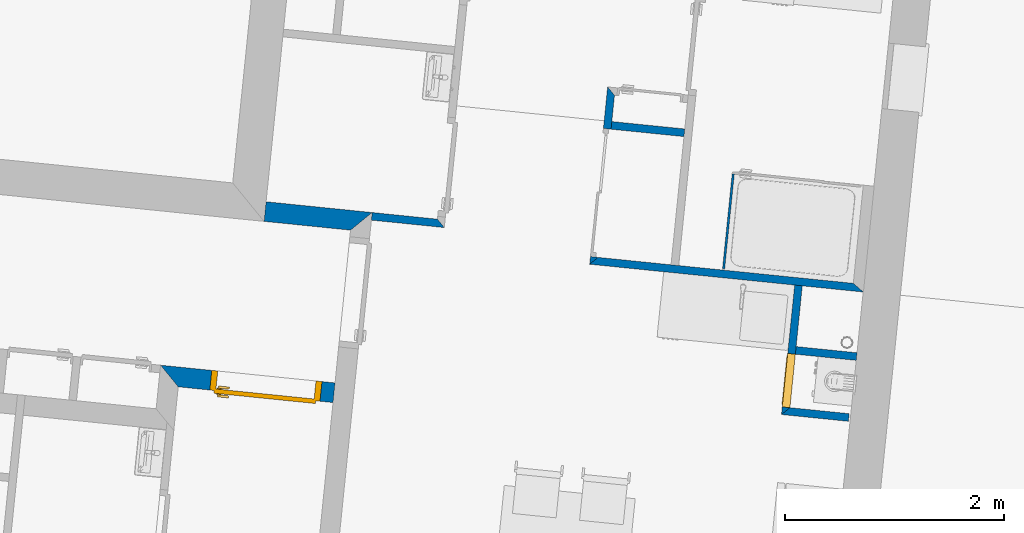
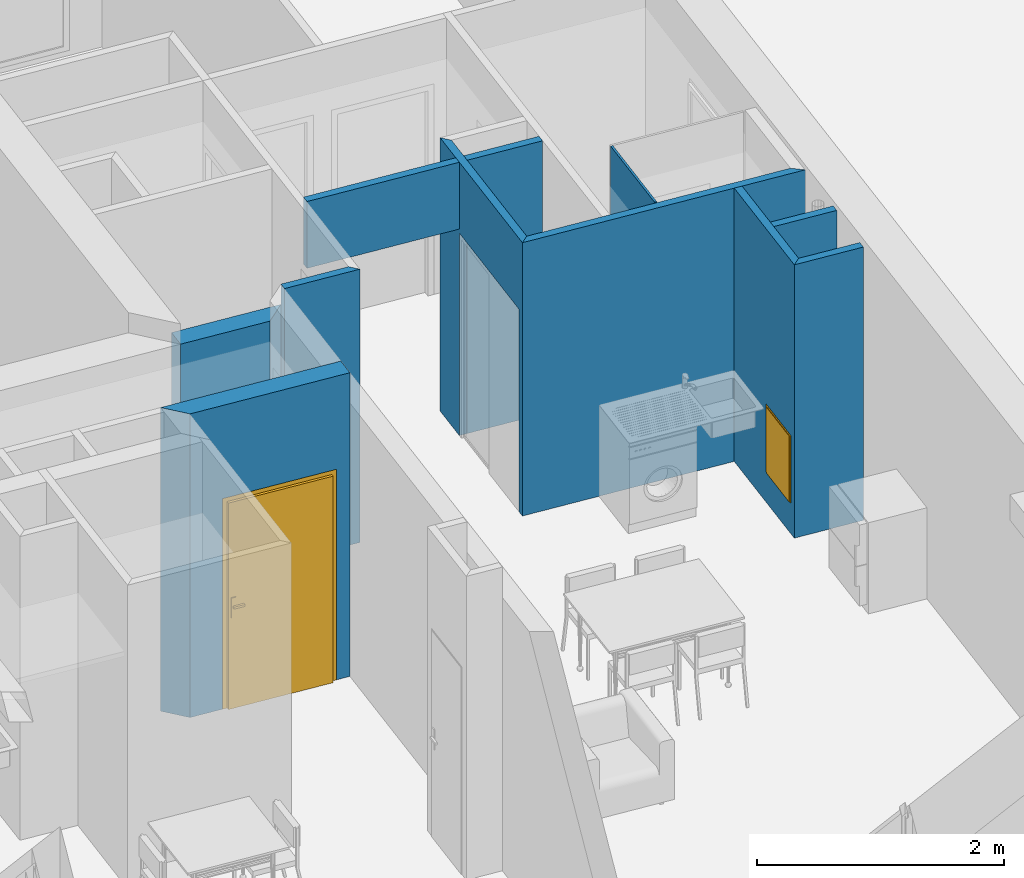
# One storey, part 75 of 171: 10 walls, 2 doors, 4 openings.
"""IFC2X3 building model written with IfcOpenShell, lengths in millimetres."""

from ifc_helpers import new_model, entity, si_unit, converted_unit, derived_unit, money_unit, direction, frame, origin_with_axes, origin_2d_with_axis, place, context, subcontext, project, spatial, polyline, rectangle, outline, extrude, faceted_brep, source, transform, mapped, material, layer, layer_set, layer_usage, type_object, element, fill, save


model = new_model("IFC2X3")

# Units and contexts
model_context = context("Model", 3, precision=0.01, world=origin_with_axes(), true_north=direction((0.0, 1.0)))
body_context = subcontext(model_context, "Body", "Model", "MODEL_VIEW")
ifc_project = project(units=[si_unit("LENGTHUNIT", "METRE", prefix="MILLI"), si_unit("AREAUNIT", "SQUARE_METRE"), si_unit("VOLUMEUNIT", "CUBIC_METRE"), converted_unit("PLANEANGLEUNIT", "DEGREE", entity("IfcPlaneAngleMeasure", 0.0174532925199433), si_unit("PLANEANGLEUNIT", "RADIAN"), dimensions=[0, 0, 0, 0, 0, 0, 0]), money_unit("USD"), converted_unit("TIMEUNIT", "Year", entity("IfcTimeMeasure", 31557600.0), si_unit("TIMEUNIT", "SECOND"), dimensions=[0, 0, 1, 0, 0, 0, 0]), si_unit("MASSUNIT", "GRAM", prefix="KILO"), si_unit("THERMODYNAMICTEMPERATUREUNIT", "DEGREE_CELSIUS"), si_unit("LUMINOUSINTENSITYUNIT", "LUMEN"), si_unit("ENERGYUNIT", "JOULE", prefix="MEGA"), derived_unit("THERMALCONDUCTANCEUNIT", [(si_unit("POWERUNIT", "WATT"), 1), (si_unit("LENGTHUNIT", "METRE"), -1), (si_unit("THERMODYNAMICTEMPERATUREUNIT", "KELVIN"), -1)]), derived_unit("SPECIFICHEATCAPACITYUNIT", [(si_unit("ENERGYUNIT", "JOULE"), 1), (si_unit("MASSUNIT", "GRAM", prefix="KILO"), -1), (si_unit("THERMODYNAMICTEMPERATUREUNIT", "KELVIN"), -1)]), derived_unit("MASSDENSITYUNIT", [(si_unit("MASSUNIT", "GRAM", prefix="KILO"), 1), (si_unit("VOLUMEUNIT", "CUBIC_METRE"), -1)])], contexts=[model_context])

# Site, building, storey
site_placement = place(None, origin_with_axes())
site = spatial("IfcSite", under=ifc_project, at=site_placement, Name="Site", CompositionType="ELEMENT")
building_placement = place(site_placement, origin_with_axes())
building = spatial("IfcBuilding", under=site, at=building_placement, Name="Bâtiment", CompositionType="ELEMENT")
storey_placement = place(building_placement, frame((0.0, 0.0, 3000.0), z_axis=(0.0, 0.0, 1.0), x_axis=(1.0, 0.0, 0.0)))
storey = spatial("IfcBuildingStorey", under=building, at=storey_placement, Name="rdc", CompositionType="ELEMENT", Elevation=3000.0)

# Wall, opening, door
ifc_material_1 = material(Name="Parpaing 314940890")
ifc_layer_1 = layer(ifc_material_1, 180.0, ventilated="UNKNOWN")
ifc_layer_set_1 = layer_set([ifc_layer_1], Name="Beton  18 0018356637")
ifc_layer_usage_1 = layer_usage(ifc_layer_set_1, "AXIS2", "NEGATIVE", 0.0)
wall_type_1 = type_object("IfcWallType", Name="Beton  18 0018356637 180", PredefinedType="NOTDEFINED")
wall_1_placement = place(storey_placement, frame((2232652.355982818, -614599.5542464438, 0.0), z_axis=(0.0, 0.0, 1.0), x_axis=(0.9948759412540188, -0.1011032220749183, 0.0)))
wall_1 = element("IfcWallStandardCase", 1, at=wall_1_placement, inside=storey, type_object=wall_type_1, material=ifc_layer_usage_1, Name="Mur-142", context=body_context, shape_type="SweptSolid", body=[
    extrude(outline(polyline([(179.99999999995, -179.9999999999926), (1599.034845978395, -179.9999999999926), (1598.986517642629, 0.0), (-1.13686837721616e-10, 0.0), (179.99999999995, -179.9999999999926)])), origin_with_axes(), (0.0, 0.0, 1.0), 3000.0),
])
opening_1_placement = place(wall_1_placement, frame((974.396814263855, 0.0, 0.0), z_axis=(0.0, 0.0, 1.0), x_axis=(1.0, 0.0, 0.0)))
opening_1 = element("IfcOpeningElement", 2, at=opening_1_placement, cuts=wall_1, Name="Por-279", context=body_context, shape_type="SweptSolid", body=[
    extrude(rectangle(XDim=1010.000011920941, YDim=2080.0, at=origin_2d_with_axis()), frame((5.960373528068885e-06, 180.0000000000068, 1040.0), z_axis=(0.0, 1.0, 0.0), x_axis=(1.0, 0.0, 0.0)), (0.0, 0.0, -1.0), 360.0),
])
door_style = type_object("IfcDoorStyle", Name="Porte_1v", ConstructionType="NOTDEFINED", OperationType="NOTDEFINED", ParameterTakesPrecedence=False, Sizeable=False)
shared_shape_1 = source(origin_with_axes(), body_context, "Body", "Brep", [
    faceted_brep([(-504.9999999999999, 0.0, 0.0), (-504.9999999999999, 0.0, 2080.0), (504.9999999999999, 0.0, 2080.0), (504.9999999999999, 0.0, 0.0), (464.9999999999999, 0.0, 0.0), (464.9999999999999, 0.0, 2040.0), (-464.9999999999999, 0.0, 2040.0), (-464.9999999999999, 0.0, 0.0), (-504.9999999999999, -180.0, 0.0), (-504.9999999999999, -180.0, 2080.0), (504.9999999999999, -180.0, 2080.0), (504.9999999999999, -180.0, 0.0), (449.9999999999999, -180.0, 0.0), (449.9999999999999, -15.0, 0.0), (464.9999999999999, -15.0, 0.0), (464.9999999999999, -15.0, 2040.0), (-464.9999999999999, -15.0, 2040.0), (-464.9999999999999, -15.0, 0.0), (-449.9999999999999, -15.0, 0.0), (-449.9999999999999, -180.0, 0.0), (-449.9999999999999, -180.0, 2025.0), (449.9999999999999, -180.0, 2025.0), (449.9999999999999, -15.0, 2025.0), (-449.9999999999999, -15.0, 2025.0)], [[[0, 1, 2, 3, 4, 5, 6, 7]], [[8, 9, 1, 0]], [[9, 10, 2, 1]], [[10, 11, 3, 2]], [[3, 11, 12, 13, 14, 4]], [[5, 4, 14, 15]], [[6, 5, 15, 16]], [[7, 6, 16, 17]], [[0, 7, 17, 18, 19, 8]], [[19, 20, 21, 12, 11, 10, 9, 8]], [[22, 13, 12, 21]], [[17, 16, 15, 14, 13, 22, 23, 18]], [[18, 23, 20, 19]], [[23, 22, 21, 20]]]),
    faceted_brep([(399.9999999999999, -15.0, 900.0), (399.9999999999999, -15.0, 1100.0), (439.9999999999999, -15.0, 1100.0), (439.9999999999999, -15.0, 900.0), (399.9999999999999, -25.0, 900.0), (399.9999999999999, -25.0, 1100.0), (439.9999999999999, -25.0, 1100.0), (439.9999999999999, -25.0, 900.0)], [[[0, 1, 2, 3]], [[0, 4, 5, 1]], [[1, 5, 6, 2]], [[2, 6, 7, 3]], [[3, 7, 4, 0]], [[7, 6, 5, 4]]]),
    faceted_brep([(329.9999999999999, -25.0, 1000.0), (329.9999999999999, -25.0, 1020.0), (429.9999999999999, -25.0, 1020.0), (429.9999999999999, -25.0, 1000.0), (329.9999999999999, -44.99999999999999, 1000.0), (329.9999999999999, -44.99999999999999, 1020.0), (429.9999999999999, -44.99999999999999, 1020.0), (429.9999999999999, -44.99999999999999, 1000.0)], [[[0, 1, 2, 3]], [[0, 4, 5, 1]], [[1, 5, 6, 2]], [[2, 6, 7, 3]], [[3, 7, 4, 0]], [[7, 6, 5, 4]]]),
    faceted_brep([(399.9999999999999, 34.99999999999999, 900.0), (399.9999999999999, 34.99999999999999, 1100.0), (439.9999999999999, 34.99999999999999, 1100.0), (439.9999999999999, 34.99999999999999, 900.0), (399.9999999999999, 25.0, 900.0), (399.9999999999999, 25.0, 1100.0), (439.9999999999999, 25.0, 1100.0), (439.9999999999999, 25.0, 900.0)], [[[0, 1, 2, 3]], [[0, 4, 5, 1]], [[1, 5, 6, 2]], [[2, 6, 7, 3]], [[3, 7, 4, 0]], [[7, 6, 5, 4]]]),
    faceted_brep([(329.9999999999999, 55.0, 1000.0), (329.9999999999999, 55.0, 1020.0), (429.9999999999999, 55.0, 1020.0), (429.9999999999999, 55.0, 1000.0), (329.9999999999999, 34.99999999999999, 1000.0), (329.9999999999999, 34.99999999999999, 1020.0), (429.9999999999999, 34.99999999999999, 1020.0), (429.9999999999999, 34.99999999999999, 1000.0)], [[[0, 1, 2, 3]], [[0, 4, 5, 1]], [[1, 5, 6, 2]], [[2, 6, 7, 3]], [[3, 7, 4, 0]], [[7, 6, 5, 4]]]),
    faceted_brep([(464.9999999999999, 25.0, 0.0), (464.9999999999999, -15.0, 0.0), (-464.9999999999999, -15.0, 0.0), (-464.9999999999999, 25.0, 0.0), (464.9999999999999, 25.0, 2040.0), (464.9999999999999, -15.0, 2040.0), (-464.9999999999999, -15.0, 2040.0), (-464.9999999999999, 25.0, 2040.0)], [[[0, 1, 2, 3]], [[4, 5, 1, 0]], [[1, 5, 6, 2]], [[3, 2, 6, 7]], [[0, 3, 7, 4]], [[7, 6, 5, 4]]]),
])
door_1_placement = place(opening_1_placement, frame((464.9999999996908, 0.0, 0.0), z_axis=(0.0, 0.0, 1.0), x_axis=(-1.0, 0.0, 0.0)))
door_1 = element("IfcDoor", 3, at=door_1_placement, inside=storey, type_object=door_style, Name="Por-279", OverallHeight=2040.0, OverallWidth=930.0, context=body_context, shape_type="MappedRepresentation", body=[
    mapped(shared_shape_1, transform((465.0000000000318, 180.0000000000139, 0.0))),
])
fill(opening_1, door_1)

# Walls
ifc_layer_usage_2 = layer_usage(ifc_layer_set_1, "AXIS2", "NEGATIVE", 0.0)
wall_2_placement = place(storey_placement, frame((2233614.508037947, -613109.1942641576, 0.0), z_axis=(0.0, 0.0, 1.0), x_axis=(0.9948759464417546, -0.1011031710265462, 0.0)))
element("IfcWallStandardCase", 4, at=wall_2_placement, inside=storey, type_object=wall_type_1, material=ifc_layer_usage_2, Name="Mur-143", context=body_context, shape_type="SweptSolid", body=[
    extrude(outline(polyline([(1.13686837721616e-10, -179.9999999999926), (792.0688861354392, -179.9999999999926), (972.0205735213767, 0.0), (0.0, 0.0), (1.13686837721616e-10, -179.9999999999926)])), origin_with_axes(), (0.0, 0.0, 1.0), 2500.0),
])
ifc_material_2 = material(Name="Hachure solide 268963992")
ifc_layer_2 = layer(ifc_material_2, 70.0, ventilated="UNKNOWN")
ifc_layer_set_2 = layer_set([ifc_layer_2], Name="Cloison 70 0826278243")
ifc_layer_usage_3 = layer_usage(ifc_layer_set_2, "AXIS2", "NEGATIVE", 70.0)
wall_type_2 = type_object("IfcWallType", Name="Cloison 70 0826278243 70", PredefinedType="NOTDEFINED")
wall_3_placement = place(storey_placement, frame((2238314.263048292, -615049.4954100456, 0.0), z_axis=(0.0, 0.0, 1.0), x_axis=(0.9948759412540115, -0.1011032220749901, 0.0)))
element("IfcWallStandardCase", 5, at=wall_3_placement, inside=storey, type_object=wall_type_2, material=ifc_layer_usage_3, Name="Mur-149", context=body_context, shape_type="SweptSolid", body=[
    extrude(outline(polyline([(0.0, 0.0), (613.0835366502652, 0.0), (613.0835366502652, 70.00000000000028), (70.00000000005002, 70.00000000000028), (0.0, 0.0)])), origin_with_axes(), (0.0, 0.0, 1.0), 2700.0),
])

# Wall, opening, door
ifc_layer_usage_4 = layer_usage(ifc_layer_set_2, "AXIS2", "NEGATIVE", 70.0)
wall_4_placement = place(storey_placement, frame((2238441.302085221, -613799.4058595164, 0.0), z_axis=(0.0, 0.0, 1.0), x_axis=(-0.1011032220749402, -0.9948759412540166, 0.0)))
wall_4 = element("IfcWallStandardCase", 6, at=wall_4_placement, inside=storey, type_object=wall_type_2, material=ifc_layer_usage_4, Name="Mur-149", context=body_context, shape_type="SweptSolid", body=[
    extrude(outline(polyline([(69.99999560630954, 0.0), (1256.528074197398, 0.0), (1186.528074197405, 69.99999999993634), (69.99999609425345, 69.99999999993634), (69.99999560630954, 0.0)])), origin_with_axes(), (0.0, 0.0, 1.0), 2700.0),
])
opening_2_placement = place(wall_4_placement, frame((941.528074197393, 0.0, 299.9999999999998), z_axis=(0.0, 0.0, 1.0), x_axis=(1.0, 0.0, 0.0)))
opening_2 = element("IfcOpeningElement", 7, at=opening_2_placement, cuts=wall_4, Name="Por-249", context=body_context, shape_type="SweptSolid", body=[
    extrude(rectangle(XDim=489.9999985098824, YDim=669.9999999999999, at=origin_2d_with_axis()), frame((7.450680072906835e-07, 69.99999999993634, 334.9999999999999), z_axis=(0.0, -1.0, 0.0), x_axis=(-1.0, 0.0, 0.0)), (0.0, 0.0, 1.0), 140.0),
])
shared_shape_2 = source(origin_with_axes(), body_context, "Body", "Brep", [
    faceted_brep([(245.0, 0.0, 0.0), (225.0, 0.0, 0.0), (225.0, 0.0, 650.0), (-225.0, 0.0, 650.0), (-225.0, 0.0, 0.0), (-245.0, 0.0, 0.0), (-245.0, 0.0, 670.0), (245.0, 0.0, 670.0), (245.0, -70.0, 0.0), (210.0, -70.0, 0.0), (210.0, -15.0, 0.0), (225.0, -15.0, 0.0), (225.0, -15.0, 650.0), (-225.0, -15.0, 650.0), (-225.0, -15.0, 0.0), (-210.0, -15.0, 0.0), (-210.0, -70.0, 0.0), (-245.0, -70.0, 0.0), (-245.0, -70.0, 670.0), (245.0, -70.0, 670.0), (-210.0, -70.0, 635.0), (210.0, -70.0, 635.0), (210.0, -15.0, 635.0), (-210.0, -15.0, 635.0)], [[[0, 1, 2, 3, 4, 5, 6, 7]], [[0, 8, 9, 10, 11, 1]], [[1, 11, 12, 2]], [[2, 12, 13, 3]], [[3, 13, 14, 4]], [[5, 4, 14, 15, 16, 17]], [[18, 6, 5, 17]], [[19, 7, 6, 18]], [[8, 0, 7, 19]], [[9, 8, 19, 18, 17, 16, 20, 21]], [[10, 9, 21, 22]], [[11, 10, 22, 23, 15, 14, 13, 12]], [[23, 20, 16, 15]], [[22, 21, 20, 23]]]),
    faceted_brep([(-225.0, 5.000000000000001, 0.0), (225.0, 5.000000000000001, 0.0), (225.0, -15.0, 0.0), (-225.0, -15.0, 0.0), (-225.0, 5.000000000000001, 650.0), (225.0, 5.000000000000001, 650.0), (225.0, -15.0, 650.0), (-225.0, -15.0, 650.0)], [[[0, 1, 2, 3]], [[0, 4, 5, 1]], [[1, 5, 6, 2]], [[3, 2, 6, 7]], [[4, 0, 3, 7]], [[5, 4, 7, 6]]]),
])
door_2_placement = place(opening_2_placement, frame((224.999999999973, -1.13686837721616e-10, 0.0), z_axis=(0.0, 0.0, 1.0), x_axis=(-1.0, 0.0, 0.0)))
door_2 = element("IfcDoor", 8, at=door_2_placement, inside=storey, type_object=door_style, Name="Por-249", OverallHeight=650.0, OverallWidth=450.0, context=body_context, shape_type="MappedRepresentation", body=[
    mapped(shared_shape_2, transform((224.9999999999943, 0.0, 0.0))),
])
fill(opening_2, door_2)

# Walls
ifc_layer_usage_5 = layer_usage(ifc_layer_set_2, "AXIS2", "NEGATIVE", 0.0)
wall_5_placement = place(storey_placement, frame((2236571.940389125, -613609.4339239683, 0.0), z_axis=(0.0, 0.0, 1.0), x_axis=(0.9948759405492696, -0.1011032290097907, 0.0)))
element("IfcWallStandardCase", 9, at=wall_5_placement, inside=storey, type_object=wall_type_2, material=ifc_layer_usage_5, Name="Mur-153", context=body_context, shape_type="SweptSolid", body=[
    extrude(outline(polyline([(0.01879483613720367, -69.99999999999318), (2509.308472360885, -69.99999999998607), (2409.317792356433, 0.0), (70.00000251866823, 0.0), (0.01879483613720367, -69.99999999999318)])), origin_with_axes(), (0.0, 0.0, 1.0), 2700.0),
])
ifc_layer_usage_6 = layer_usage(ifc_layer_set_2, "AXIS2", "NEGATIVE", 70.0)
wall_6_placement = place(storey_placement, frame((2235176.883858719, -613267.9689967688, 0.0), z_axis=(0.0, 0.0, 1.0), x_axis=(-0.9948759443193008, 0.1011031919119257, 0.0)))
element("IfcWallStandardCase", 10, at=wall_6_placement, inside=storey, type_object=wall_type_2, material=ifc_layer_usage_6, Name="Mur-149", context=body_context, shape_type="SweptSolid", body=[
    extrude(outline(polyline([(-1.13686837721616e-10, 0.0), (598.4021788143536, 0.0), (598.3833865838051, 69.99999999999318), (-70.00000146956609, 69.99999999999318), (-1.13686837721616e-10, 0.0)])), origin_with_axes(), (0.0, 0.0, 1.0), 2700.0),
])
ifc_layer_usage_7 = layer_usage(ifc_layer_set_2, "AXIS2", "NEGATIVE", 70.0)
wall_7_placement = place(storey_placement, frame((2238370.880852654, -614492.3648829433, 0.0), z_axis=(0.0, 0.0, 1.0), x_axis=(0.9948759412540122, -0.1011032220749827, 0.0)))
element("IfcWallStandardCase", 11, at=wall_7_placement, inside=storey, type_object=wall_type_2, material=ifc_layer_usage_7, Name="Mur-149", context=body_context, shape_type="SweptSolid", body=[
    extrude(outline(polyline([(69.99999999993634, 0.0), (628.051133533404, 0.0), (628.0511335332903, 69.99999999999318), (69.99999999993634, 69.99999999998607), (69.99999999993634, 0.0)])), origin_with_axes(), (0.0, 0.0, 1.0), 2700.0),
])

# Wall, opening
ifc_layer_usage_8 = layer_usage(ifc_layer_set_2, "AXIS2", "NEGATIVE", 0.0)
wall_8_placement = place(storey_placement, frame((2236571.940387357, -613609.43394137, 0.0), z_axis=(0.0, 0.0, 1.0), x_axis=(0.1008361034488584, 0.9949030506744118, 0.0)))
wall_8 = element("IfcWallStandardCase", 12, at=wall_8_placement, inside=storey, type_object=wall_type_2, material=ifc_layer_usage_8, Name="Mur-153", context=body_context, shape_type="SweptSolid", body=[
    extrude(outline(polyline([(-0.01877734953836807, -70.00000000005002), (1485.488833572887, -70.00000000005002), (1555.488833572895, 0.0), (-69.99998503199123, 0.0), (-0.01877734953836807, -70.00000000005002)])), origin_with_axes(), (0.0, 0.0, 1.0), 2700.0),
])
opening_3_placement = place(wall_8_placement, frame((587.2524613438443, 1.13686837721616e-10, 0.0), z_axis=(0.0, 0.0, 1.0), x_axis=(1.0, 0.0, 0.0)))
element("IfcOpeningElement", 13, at=opening_3_placement, cuts=wall_8, Name="Por-254", context=body_context, shape_type="SweptSolid", body=[
    extrude(rectangle(XDim=1174.542511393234, YDim=2000.0, at=origin_2d_with_axis()), frame((0.0, -1.13686837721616e-10, 1000.0), z_axis=(0.0, -1.0, 0.0), x_axis=(1.0, 0.0, 0.0)), (0.0, 0.0, -1.0), 70.0),
    extrude(rectangle(XDim=1174.542511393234, YDim=2000.0, at=origin_2d_with_axis()), frame((0.0, 0.0, 1000.0), z_axis=(0.0, 1.0, 0.0), x_axis=(1.0, 0.0, 0.0)), (0.0, 0.0, -1.0), 70.0),
])

ifc_material_3 = material(Name="Hachure solide 269229667")
ifc_layer_3 = layer(ifc_material_3, 70.0, ventilated="UNKNOWN")
ifc_layer_set_3 = layer_set([ifc_layer_3], Name="Cloison 70 0836576958")
ifc_layer_usage_9 = layer_usage(ifc_layer_set_3, "AXIS2", "POSITIVE", 0.0)
wall_type_3 = type_object("IfcWallType", Name="Cloison 70 0836576958 70", PredefinedType="NOTDEFINED")
wall_9_placement = place(storey_placement, frame((2235275.507100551, -612297.4960624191, 0.0), z_axis=(0.0, 0.0, 1.0), x_axis=(0.9949030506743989, -0.1008361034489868, 0.0)))
wall_9 = element("IfcWallStandardCase", 14, at=wall_9_placement, inside=storey, type_object=wall_type_3, material=ifc_layer_usage_9, Name="Mur-148", context=body_context, shape_type="SweptSolid", body=[
    extrude(outline(polyline([(70.00000252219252, 0.0), (2160.772128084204, 0.0), (2160.772128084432, 69.99999999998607), (70.01879328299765, 69.99999999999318), (70.00000252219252, 0.0)])), origin_with_axes(), (0.0, 0.0, 1.0), 2700.0),
])
opening_4_placement = place(wall_9_placement, frame((746.0580691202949, 0.0, 0.0), z_axis=(0.0, 0.0, 1.0), x_axis=(1.0, 0.0, 0.0)))
element("IfcOpeningElement", 15, at=opening_4_placement, cuts=wall_9, Name="Por-287", context=body_context, shape_type="SweptSolid", body=[
    extrude(rectangle(XDim=1352.116133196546, YDim=2040.0, at=origin_2d_with_axis()), frame((0.0, 0.0, 1020.0), z_axis=(0.0, 1.0, 0.0), x_axis=(1.0, 0.0, 0.0)), (0.0, 0.0, -1.0), 70.0),
    extrude(rectangle(XDim=1352.116133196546, YDim=2040.0, at=origin_2d_with_axis()), frame((0.0, 0.0, 1020.0), z_axis=(0.0, -1.0, 0.0), x_axis=(1.0, 0.0, 0.0)), (0.0, 0.0, -1.0), 70.0),
])

# Wall
ifc_material_4 = material(Name="Empty Fill 292498448")
ifc_layer_4 = layer(ifc_material_4, 20.0, ventilated="UNKNOWN")
ifc_layer_set_4 = layer_set([ifc_layer_4], Name="mur 2cm")
ifc_layer_usage_10 = layer_usage(ifc_layer_set_4, "AXIS2", "POSITIVE", -20.0)
wall_type_4 = type_object("IfcWallType", Name="mur 2cm 20", PredefinedType="NOTDEFINED")
wall_10_placement = place(storey_placement, frame((2237776.348225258, -613719.0517909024, 0.0), z_axis=(0.0, 0.0, 1.0), x_axis=(0.1012059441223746, 0.9948654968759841, 0.0)))
element("IfcWallStandardCase", 16, at=wall_10_placement, inside=storey, type_object=wall_type_4, material=ifc_layer_usage_10, Name="Mur-148", context=body_context, shape_type="SweptSolid", body=[
    extrude(outline(polyline([(0.0, -20.0000000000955), (867.4464606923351, -20.0000000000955), (867.4464606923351, -1.13686837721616e-10), (0.0, 0.0), (0.0, -20.0000000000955)])), origin_with_axes(), (0.0, 0.0, 1.0), 2700.0),
])

save(model, "model.ifc")
